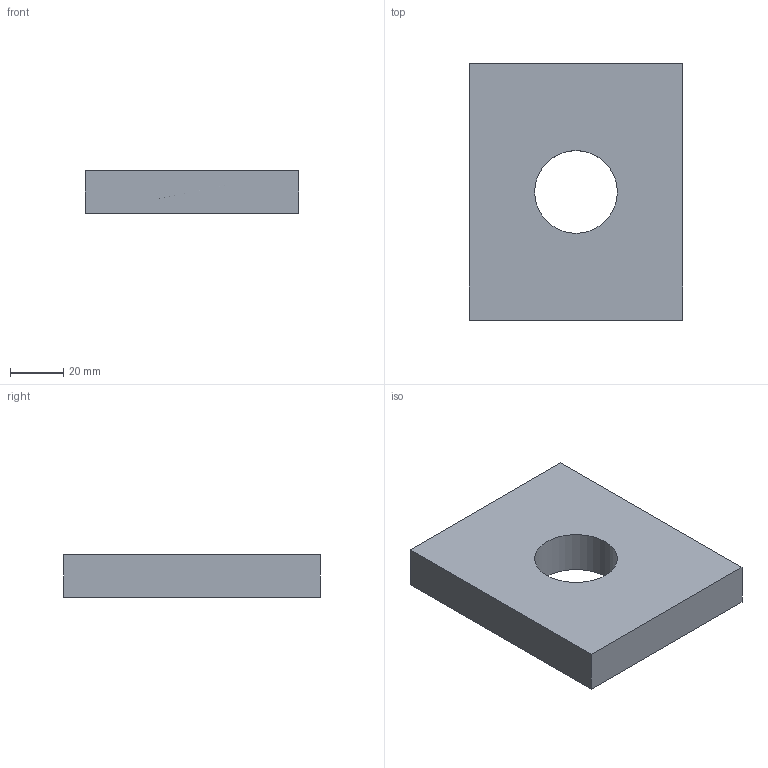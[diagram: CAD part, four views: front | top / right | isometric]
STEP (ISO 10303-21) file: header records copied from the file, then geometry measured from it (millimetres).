
FILE_DESCRIPTION(('Open CASCADE Model'),'2;1');
FILE_NAME('Open CASCADE Shape Model','2026-10-15T15:10:05',('Author'),( 'Open CASCADE'),'Open CASCADE STEP processor 8.0','Open CASCADE 8.0' ,'Unknown');
FILE_SCHEMA(('AUTOMOTIVE_DESIGN { 1 0 10303 214 1 1 1 1 }'));
Length unit declared in the file: millimetre
Products named in the file (1): TC07_RECEPTOR_80x96x16_D31_P05 141
Bounding box: 80 x 96 x 16 mm (x, y, z)
Volume: 110803.7 mm3; surface area: 21040.7 mm2
Topology: 1 solids, 1 shells, 7 faces, 15 edges, 10 vertices
Faces by surface type: plane 6, cylinder 1
Full cylindrical faces by diameter (mm): 31 x1
Entity records: 400 total; most frequent: CARTESIAN_POINT 63, DIRECTION 63, LINE 41, VECTOR 41, ORIENTED_EDGE 30, PCURVE 30, DEFINITIONAL_REPRESENTATION 30, EDGE_CURVE 15
